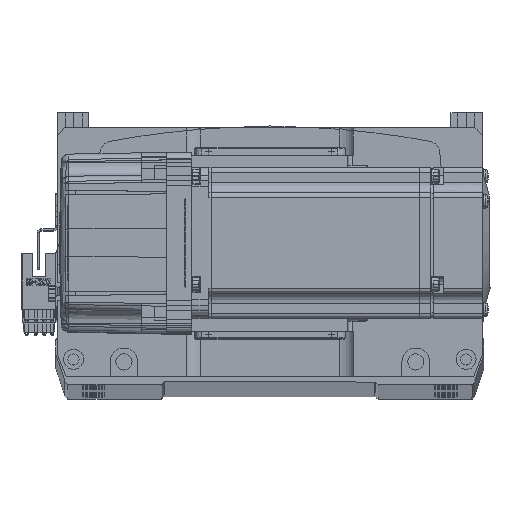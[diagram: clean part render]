
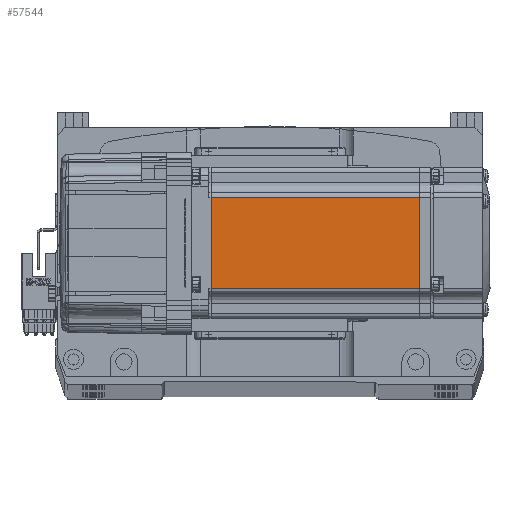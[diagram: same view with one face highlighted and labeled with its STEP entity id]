
A CAD part, top view. The second image highlights one B-rep face of the part: STEP entity #57544.
In plain terms, the highlighted planar face has unit normal (0, 0, 1) as drawn and (0, -1, 0) by its records, which use the part's own axes.
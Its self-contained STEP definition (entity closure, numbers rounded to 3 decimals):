
#745 = VECTOR ( 'NONE', #22166, 1000. ) ;
#3687 = EDGE_CURVE ( 'NONE', #40051, #40274, #19996, .T. ) ;
#6890 = CARTESIAN_POINT ( 'NONE',  ( -90.45, -30., -25. ) ) ;
#7186 = VERTEX_POINT ( 'NONE', #16660 ) ;
#11398 = ORIENTED_EDGE ( 'NONE', *, *, #63856, .T. ) ;
#12523 = DIRECTION ( 'NONE',  ( 0., 0., -1. ) ) ;
#16660 = CARTESIAN_POINT ( 'NONE',  ( -7.75, -30., 18. ) ) ;
#18141 = DIRECTION ( 'NONE',  ( -1., 0., 0. ) ) ;
#18237 = DIRECTION ( 'NONE',  ( 0., 0., -1. ) ) ;
#19996 = LINE ( 'NONE', #44425, #745 ) ;
#20812 = ORIENTED_EDGE ( 'NONE', *, *, #3687, .T. ) ;
#22166 = DIRECTION ( 'NONE',  ( 1., 0., 0. ) ) ;
#22569 = LINE ( 'NONE', #24303, #50605 ) ;
#23744 = CARTESIAN_POINT ( 'NONE',  ( -6.5, -30., 18. ) ) ;
#24303 = CARTESIAN_POINT ( 'NONE',  ( -7.75, -30., -25. ) ) ;
#25189 = EDGE_LOOP ( 'NONE', ( #11398, #27896, #69516, #20812 ) ) ;
#27024 = VECTOR ( 'NONE', #12523, 1000. ) ;
#27489 = CARTESIAN_POINT ( 'NONE',  ( -90.45, -30., -18. ) ) ;
#27896 = ORIENTED_EDGE ( 'NONE', *, *, #64486, .T. ) ;
#33166 = EDGE_CURVE ( 'NONE', #51964, #40051, #56851, .T. ) ;
#34312 = DIRECTION ( 'NONE',  ( 0., 0., 1. ) ) ;
#39077 = LINE ( 'NONE', #23744, #65358 ) ;
#40051 = VERTEX_POINT ( 'NONE', #27489 ) ;
#40274 = VERTEX_POINT ( 'NONE', #57833 ) ;
#40703 = PLANE ( 'NONE',  #55878 ) ;
#44425 = CARTESIAN_POINT ( 'NONE',  ( -6.5, -30., -18. ) ) ;
#45856 = CARTESIAN_POINT ( 'NONE',  ( -6.5, -30., -25. ) ) ;
#50605 = VECTOR ( 'NONE', #34312, 1000. ) ;
#51793 = DIRECTION ( 'NONE',  ( 0., -1., 0. ) ) ;
#51964 = VERTEX_POINT ( 'NONE', #56551 ) ;
#55878 = AXIS2_PLACEMENT_3D ( 'NONE', #45856, #51793, #18237 ) ;
#56551 = CARTESIAN_POINT ( 'NONE',  ( -90.45, -30., 18. ) ) ;
#56851 = LINE ( 'NONE', #6890, #27024 ) ;
#57544 = ADVANCED_FACE ( 'NONE', ( #66498 ), #40703, .T. ) ;
#57833 = CARTESIAN_POINT ( 'NONE',  ( -7.75, -30., -18. ) ) ;
#63856 = EDGE_CURVE ( 'NONE', #40274, #7186, #22569, .T. ) ;
#64486 = EDGE_CURVE ( 'NONE', #7186, #51964, #39077, .T. ) ;
#65358 = VECTOR ( 'NONE', #18141, 1000. ) ;
#66498 = FACE_OUTER_BOUND ( 'NONE', #25189, .T. ) ;
#69516 = ORIENTED_EDGE ( 'NONE', *, *, #33166, .T. ) ;
